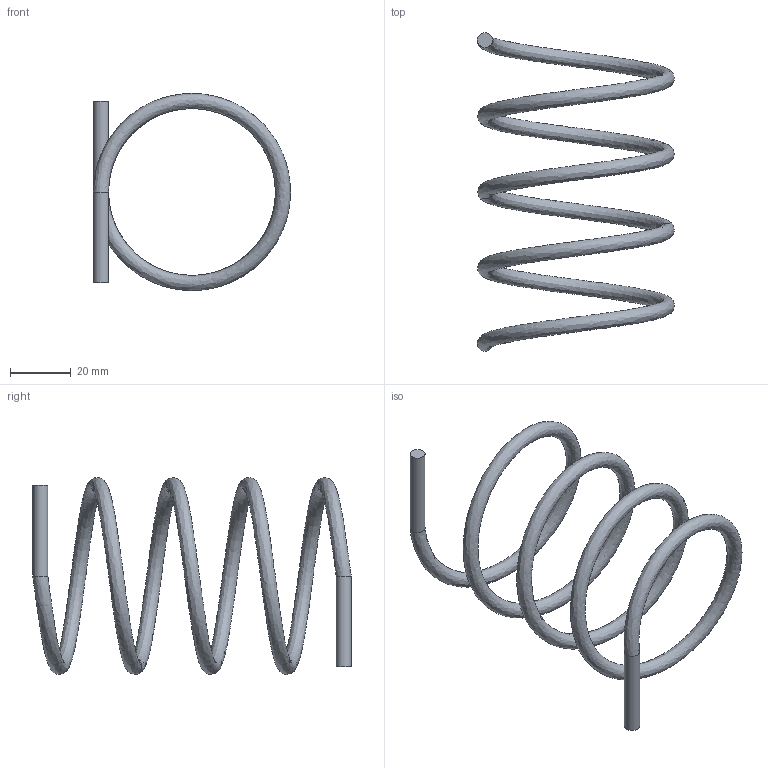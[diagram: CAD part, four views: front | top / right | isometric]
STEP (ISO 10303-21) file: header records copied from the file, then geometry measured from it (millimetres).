
FILE_DESCRIPTION( ( 'STEP Version 203' ), '1' );
FILE_NAME( ' ', '11/30/10 14:55:49', ( 'aho' ), ( ' ' ), 'PSStep 14.0', 'DesignModeler STEP Output', ' ' );
FILE_SCHEMA( ( 'AUTOMOTIVE_DESIGN { 1 0 10303 214 1 1 1 1 }' ) );
Length unit declared in the file: metre
Products named in the file (1): Heating Coil
Bounding box: 65 x 105 x 65 mm (x, y, z)
Volume: 15861.6 mm3; surface area: 12810.3 mm2
Topology: 1 solids, 1 shells, 5 faces, 8 edges, 5 vertices
Faces by surface type: plane 2, cylinder 2, bspline 1
Full cylindrical faces by diameter (mm): 5 x2
Entity records: 671 total; most frequent: CARTESIAN_POINT 580, DIRECTION 18, AXIS2_PLACEMENT_3D 9, FACE_OUTER_BOUND 8, EDGE_LOOP 8, ORIENTED_EDGE 8, ADVANCED_FACE 5, EDGE_CURVE 4
